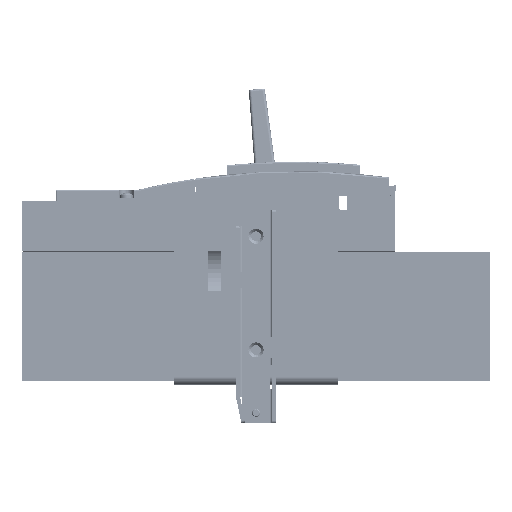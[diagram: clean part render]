
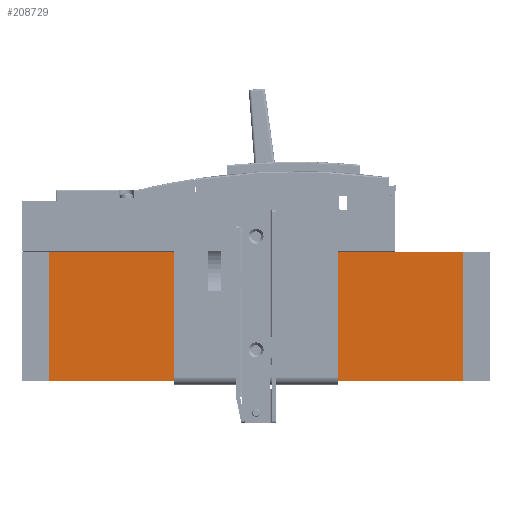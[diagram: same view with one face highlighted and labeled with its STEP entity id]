
A CAD part, left-side view. The second image highlights one B-rep face of the part: STEP entity #208729.
In plain terms, the highlighted planar face has unit normal (-1, 0, 0).
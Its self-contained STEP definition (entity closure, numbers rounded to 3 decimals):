
#42814 = DIRECTION ( 'NONE',  ( 0., -1., 0. ) ) ;
#42816 = VECTOR ( 'NONE', #42814, 1000. ) ;
#42817 = CARTESIAN_POINT ( 'NONE',  ( -128.283, 66.423, -1.5 ) ) ;
#42818 = LINE ( 'NONE', #42817, #42816 ) ;
#43043 = CARTESIAN_POINT ( 'NONE',  ( -128.283, 66.423, -1.5 ) ) ;
#43098 = CARTESIAN_POINT ( 'NONE',  ( -128.283, 376.423, -1.5 ) ) ;
#47051 = CARTESIAN_POINT ( 'NONE',  ( -128.283, 66.423, 95. ) ) ;
#47218 = CARTESIAN_POINT ( 'NONE',  ( -128.283, 376.423, 95. ) ) ;
#47406 = DIRECTION ( 'NONE',  ( 0., -1., 0. ) ) ;
#47407 = VECTOR ( 'NONE', #47406, 1000. ) ;
#47409 = CARTESIAN_POINT ( 'NONE',  ( -128.283, 66.423, 95. ) ) ;
#47425 = LINE ( 'NONE', #47409, #47407 ) ;
#162699 = EDGE_CURVE ( 'NONE', #162878, #162820, #42818, .T. ) ;
#162820 = VERTEX_POINT ( 'NONE', #43043 ) ;
#162878 = VERTEX_POINT ( 'NONE', #43098 ) ;
#164059 = VERTEX_POINT ( 'NONE', #47051 ) ;
#164132 = VERTEX_POINT ( 'NONE', #47218 ) ;
#164170 = EDGE_CURVE ( 'NONE', #164132, #164059, #47425, .T. ) ;
#208681 = ORIENTED_EDGE ( 'NONE', *, *, #208684, .F. ) ;
#208684 = EDGE_CURVE ( 'NONE', #164059, #162820, #221127, .T. ) ;
#208685 = ORIENTED_EDGE ( 'NONE', *, *, #164170, .F. ) ;
#208723 = EDGE_CURVE ( 'NONE', #164132, #162878, #221454, .T. ) ;
#208729 = ADVANCED_FACE ( 'NONE', ( #221447 ), #221397, .F. ) ;
#208734 = EDGE_LOOP ( 'NONE', ( #208736, #208737, #208681, #208685 ) ) ;
#208736 = ORIENTED_EDGE ( 'NONE', *, *, #208723, .T. ) ;
#208737 = ORIENTED_EDGE ( 'NONE', *, *, #162699, .T. ) ;
#221123 = DIRECTION ( 'NONE',  ( 0., 0., -1. ) ) ;
#221124 = VECTOR ( 'NONE', #221123, 1000. ) ;
#221125 = CARTESIAN_POINT ( 'NONE',  ( -128.283, 66.423, 95. ) ) ;
#221127 = LINE ( 'NONE', #221125, #221124 ) ;
#221383 = DIRECTION ( 'NONE',  ( 0., 0., -1. ) ) ;
#221386 = DIRECTION ( 'NONE',  ( 1., 0., 0. ) ) ;
#221388 = CARTESIAN_POINT ( 'NONE',  ( -128.283, 66.423, 95. ) ) ;
#221389 = AXIS2_PLACEMENT_3D ( 'NONE', #221388, #221386, #221383 ) ;
#221397 = PLANE ( 'NONE',  #221389 ) ;
#221447 = FACE_OUTER_BOUND ( 'NONE', #208734, .T. ) ;
#221450 = DIRECTION ( 'NONE',  ( 0., 0., -1. ) ) ;
#221451 = VECTOR ( 'NONE', #221450, 1000. ) ;
#221453 = CARTESIAN_POINT ( 'NONE',  ( -128.283, 376.423, 95. ) ) ;
#221454 = LINE ( 'NONE', #221453, #221451 ) ;
